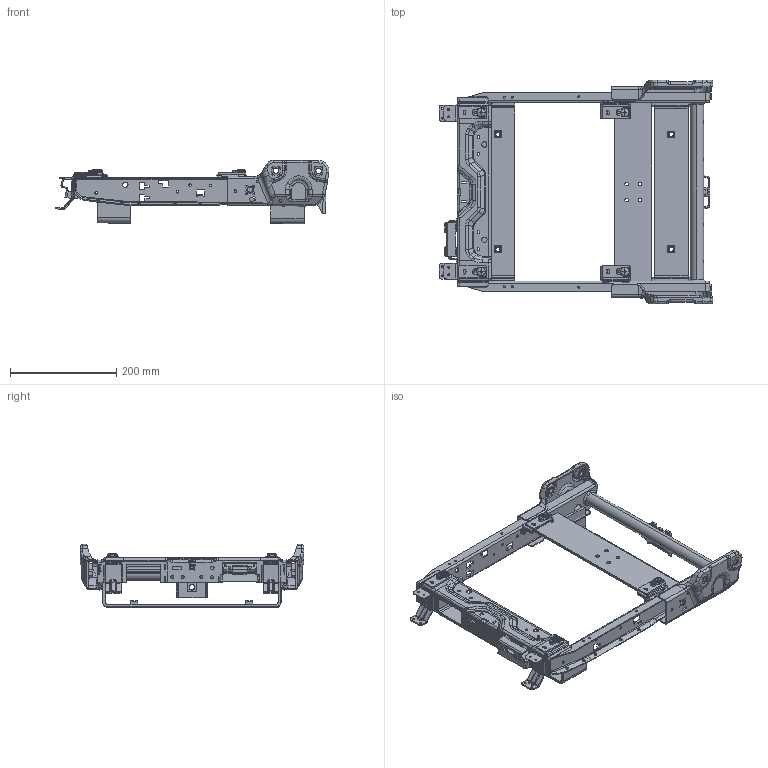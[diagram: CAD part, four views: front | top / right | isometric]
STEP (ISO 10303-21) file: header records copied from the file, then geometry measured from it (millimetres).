
FILE_DESCRIPTION(('CATIA V5 STEP Exchange'),'2;1');
FILE_NAME('C:\Users\Administrator\Desktop\J6G样件数据\旋转副驾\座框焊接总成.stp','2023-04-10T05:29:16+00:00',('none'),('none'),'CATIA Version 5 Release 20 GA (IN-10)','CATIA V5 STEP AP214','none');
FILE_SCHEMA(('AUTOMOTIVE_DESIGN { 1 0 10303 214 1 1 1 1 }'));
Length unit declared in the file: millimetre
Products named in the file (35): 副驾; SHT0015038; 777; SHT0014483; SHT0014606; SHT0014512; SHT0012268; Q37110; H4B-6805326; SHT0012266; SHT0012269; SHT0012267; SHT0014512-H; SHT0015081; H4B-6805319; H5-6805318; H4B-6805322; SQX3000-6805318; SHT0014604; SQX3000-6805317; SHT0014605; SQX3000-6805319; SHT0014596; SHT0014563; SHT0014565; SHT0014594; Q37106; SHT0014596-H; SHT0015145; H5-6801110; BFA0010096; 111; 45105746331; GB13680-M8; Copy (1) of 01111
Assembly tree (49 placements, depth 9):
  副驾
    SHT0015038
      777
        SHT0014483
          SHT0014606
            SHT0014512
              SHT0012268
                Q37110  x2
                H4B-6805326
                SHT0012266
              SHT0012269
                SHT0012267
                Q37110  x2
                H4B-6805326
              SHT0014512-H
              SHT0015081
                H4B-6805319
                H5-6805318
                  H4B-6805322
                  H4B-6805326
                SQX3000-6805318  x2
                SHT0014604
                  SQX3000-6805317
                SHT0014605
                  SQX3000-6805319
                SHT0014596
                  SHT0014563
                  SHT0014565
                  SHT0014594  x2
                  Q37106
                  SHT0014596-H
                  SHT0015145
            H5-6801110  x4
            BFA0010096  x4
        111  x2
          45105746331
          GB13680-M8
        Copy (1) of 01111
Bounding box: 514.77 x 420.05 x 118.94 mm (x, y, z)
Volume: 832926.2 mm3; surface area: 615011.2 mm2
Topology: 94 solids, 94 shells, 3403 faces, 8630 edges, 5394 vertices
Faces by surface type: cylinder 1496, plane 1046, bspline 360, torus 242, cone 101, sphere 76, extrusion 70, revolution 12
Entity records: 136097 total; most frequent: CARTESIAN_POINT 81729, ORIENTED_EDGE 12258, DIRECTION 8379, EDGE_CURVE 6129, VERTEX_POINT 3872, AXIS2_PLACEMENT_3D 3439, VECTOR 2883, LINE 2837
